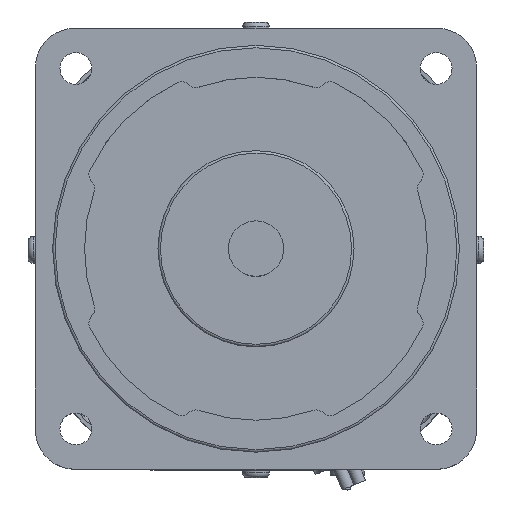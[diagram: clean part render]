
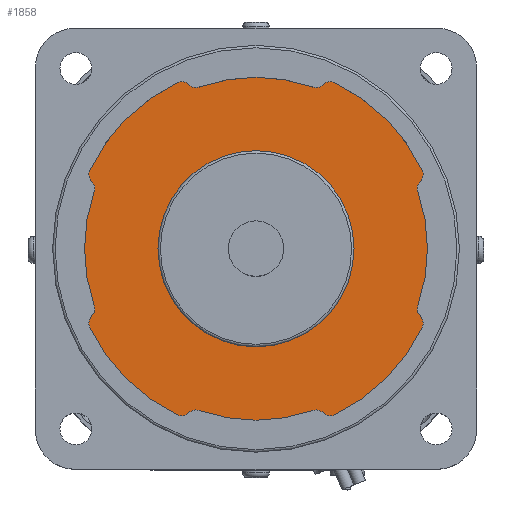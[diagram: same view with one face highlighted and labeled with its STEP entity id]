
A CAD part, top view. The second image highlights one B-rep face of the part: STEP entity #1858.
In plain terms, the highlighted planar face has unit normal (0, 0, 1).
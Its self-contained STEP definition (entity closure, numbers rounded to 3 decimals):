
#1617=CARTESIAN_POINT('',(20.0,0.,171.0));
#1618=VERTEX_POINT('',#1617);
#1619=CARTESIAN_POINT('',(0.,0.,171.0));
#1620=DIRECTION('',(0.0,0.0,-1.0));
#1621=DIRECTION('',(-1.0,0.0,0.0));
#1622=AXIS2_PLACEMENT_3D('',#1619,#1620,#1621);
#1623=CIRCLE('',#1622,20.0);
#1624=EDGE_CURVE('',#1618,#1618,#1623,.T.);
#1632=CARTESIAN_POINT('',(0.,0.,171.0));
#1633=DIRECTION('',(0.0,0.0,1.0));
#1634=DIRECTION('',(1.0,0.0,0.0));
#1635=AXIS2_PLACEMENT_3D('',#1632,#1633,#1634);
#1636=PLANE('',#1635);
#1637=CARTESIAN_POINT('',(-16.006,-33.913,171.0));
#1638=VERTEX_POINT('',#1637);
#1639=CARTESIAN_POINT('',(-13.722,-33.501,171.0));
#1640=VERTEX_POINT('',#1639);
#1641=CARTESIAN_POINT('',(-15.152,-32.104,171.0));
#1642=DIRECTION('',(0.0,0.0,1.0));
#1643=DIRECTION('',(0.427,0.904,0.0));
#1644=AXIS2_PLACEMENT_3D('',#1641,#1642,#1643);
#1645=CIRCLE('',#1644,2.);
#1646=EDGE_CURVE('',#1638,#1640,#1645,.T.);
#1647=ORIENTED_EDGE('',*,*,#1646,.T.);
#1648=CARTESIAN_POINT('',(-11.626,-33.013,171.0));
#1649=VERTEX_POINT('',#1648);
#1650=CARTESIAN_POINT('',(-12.291,-34.899,171.0));
#1651=DIRECTION('',(0.0,0.0,-1.0));
#1652=DIRECTION('',(-0.408,0.913,0.0));
#1653=AXIS2_PLACEMENT_3D('',#1650,#1651,#1652);
#1654=CIRCLE('',#1653,2.0);
#1655=EDGE_CURVE('',#1649,#1640,#1654,.F.);
#1656=ORIENTED_EDGE('',*,*,#1655,.F.);
#1657=CARTESIAN_POINT('',(11.626,-33.013,171.0));
#1658=VERTEX_POINT('',#1657);
#1659=CARTESIAN_POINT('',(0.,0.,171.));
#1660=DIRECTION('',(0.,0.,1.0));
#1661=DIRECTION('',(-0.383,-0.924,0.));
#1662=AXIS2_PLACEMENT_3D('',#1659,#1660,#1661);
#1663=CIRCLE('',#1662,35.0);
#1664=EDGE_CURVE('',#1649,#1658,#1663,.T.);
#1665=ORIENTED_EDGE('',*,*,#1664,.T.);
#1666=CARTESIAN_POINT('',(13.722,-33.501,171.0));
#1667=VERTEX_POINT('',#1666);
#1668=CARTESIAN_POINT('',(12.291,-34.899,171.0));
#1669=DIRECTION('',(0.0,0.0,-1.0));
#1670=DIRECTION('',(0.408,0.913,0.0));
#1671=AXIS2_PLACEMENT_3D('',#1668,#1669,#1670);
#1672=CIRCLE('',#1671,2.0);
#1673=EDGE_CURVE('',#1667,#1658,#1672,.F.);
#1674=ORIENTED_EDGE('',*,*,#1673,.F.);
#1675=CARTESIAN_POINT('',(16.006,-33.913,171.0));
#1676=VERTEX_POINT('',#1675);
#1677=CARTESIAN_POINT('',(15.152,-32.104,171.0));
#1678=DIRECTION('',(0.0,0.0,1.0));
#1679=DIRECTION('',(0.715,0.699,0.0));
#1680=AXIS2_PLACEMENT_3D('',#1677,#1678,#1679);
#1681=CIRCLE('',#1680,2.);
#1682=EDGE_CURVE('',#1667,#1676,#1681,.T.);
#1683=ORIENTED_EDGE('',*,*,#1682,.T.);
#1684=CARTESIAN_POINT('',(33.913,-16.006,171.0));
#1685=VERTEX_POINT('',#1684);
#1686=CARTESIAN_POINT('',(0.,0.,171.));
#1687=DIRECTION('',(0.,0.,1.0));
#1688=DIRECTION('',(0.383,-0.924,0.));
#1689=AXIS2_PLACEMENT_3D('',#1686,#1687,#1688);
#1690=CIRCLE('',#1689,37.5);
#1691=EDGE_CURVE('',#1676,#1685,#1690,.T.);
#1692=ORIENTED_EDGE('',*,*,#1691,.T.);
#1693=CARTESIAN_POINT('',(33.501,-13.722,171.0));
#1694=VERTEX_POINT('',#1693);
#1695=CARTESIAN_POINT('',(32.104,-15.152,171.0));
#1696=DIRECTION('',(0.0,0.0,1.0));
#1697=DIRECTION('',(-0.904,0.427,0.0));
#1698=AXIS2_PLACEMENT_3D('',#1695,#1696,#1697);
#1699=CIRCLE('',#1698,2.);
#1700=EDGE_CURVE('',#1685,#1694,#1699,.T.);
#1701=ORIENTED_EDGE('',*,*,#1700,.T.);
#1702=CARTESIAN_POINT('',(33.013,-11.626,171.0));
#1703=VERTEX_POINT('',#1702);
#1704=CARTESIAN_POINT('',(34.899,-12.291,171.0));
#1705=DIRECTION('',(0.0,0.0,-1.0));
#1706=DIRECTION('',(-0.913,-0.408,0.0));
#1707=AXIS2_PLACEMENT_3D('',#1704,#1705,#1706);
#1708=CIRCLE('',#1707,2.0);
#1709=EDGE_CURVE('',#1703,#1694,#1708,.F.);
#1710=ORIENTED_EDGE('',*,*,#1709,.F.);
#1711=CARTESIAN_POINT('',(33.013,11.626,171.0));
#1712=VERTEX_POINT('',#1711);
#1713=CARTESIAN_POINT('',(0.,0.,171.));
#1714=DIRECTION('',(0.,0.,1.0));
#1715=DIRECTION('',(0.924,-0.383,0.));
#1716=AXIS2_PLACEMENT_3D('',#1713,#1714,#1715);
#1717=CIRCLE('',#1716,35.);
#1718=EDGE_CURVE('',#1703,#1712,#1717,.T.);
#1719=ORIENTED_EDGE('',*,*,#1718,.T.);
#1720=CARTESIAN_POINT('',(33.501,13.722,171.0));
#1721=VERTEX_POINT('',#1720);
#1722=CARTESIAN_POINT('',(34.899,12.291,171.0));
#1723=DIRECTION('',(0.0,0.0,-1.0));
#1724=DIRECTION('',(-0.913,0.408,0.0));
#1725=AXIS2_PLACEMENT_3D('',#1722,#1723,#1724);
#1726=CIRCLE('',#1725,2.0);
#1727=EDGE_CURVE('',#1721,#1712,#1726,.F.);
#1728=ORIENTED_EDGE('',*,*,#1727,.F.);
#1729=CARTESIAN_POINT('',(33.913,16.006,171.0));
#1730=VERTEX_POINT('',#1729);
#1731=CARTESIAN_POINT('',(32.104,15.152,171.0));
#1732=DIRECTION('',(0.0,0.0,1.0));
#1733=DIRECTION('',(-0.699,0.715,0.0));
#1734=AXIS2_PLACEMENT_3D('',#1731,#1732,#1733);
#1735=CIRCLE('',#1734,2.);
#1736=EDGE_CURVE('',#1721,#1730,#1735,.T.);
#1737=ORIENTED_EDGE('',*,*,#1736,.T.);
#1738=CARTESIAN_POINT('',(16.006,33.913,171.0));
#1739=VERTEX_POINT('',#1738);
#1740=CARTESIAN_POINT('',(0.,0.,171.));
#1741=DIRECTION('',(0.,0.,1.0));
#1742=DIRECTION('',(0.924,0.383,0.));
#1743=AXIS2_PLACEMENT_3D('',#1740,#1741,#1742);
#1744=CIRCLE('',#1743,37.5);
#1745=EDGE_CURVE('',#1730,#1739,#1744,.T.);
#1746=ORIENTED_EDGE('',*,*,#1745,.T.);
#1747=CARTESIAN_POINT('',(13.722,33.501,171.0));
#1748=VERTEX_POINT('',#1747);
#1749=CARTESIAN_POINT('',(15.152,32.104,171.0));
#1750=DIRECTION('',(0.0,0.0,1.0));
#1751=DIRECTION('',(-0.427,-0.904,0.0));
#1752=AXIS2_PLACEMENT_3D('',#1749,#1750,#1751);
#1753=CIRCLE('',#1752,2.);
#1754=EDGE_CURVE('',#1739,#1748,#1753,.T.);
#1755=ORIENTED_EDGE('',*,*,#1754,.T.);
#1756=CARTESIAN_POINT('',(11.626,33.013,171.0));
#1757=VERTEX_POINT('',#1756);
#1758=CARTESIAN_POINT('',(12.291,34.899,171.0));
#1759=DIRECTION('',(0.0,0.0,-1.0));
#1760=DIRECTION('',(0.408,-0.913,0.0));
#1761=AXIS2_PLACEMENT_3D('',#1758,#1759,#1760);
#1762=CIRCLE('',#1761,2.0);
#1763=EDGE_CURVE('',#1757,#1748,#1762,.F.);
#1764=ORIENTED_EDGE('',*,*,#1763,.F.);
#1765=CARTESIAN_POINT('',(-11.626,33.013,171.0));
#1766=VERTEX_POINT('',#1765);
#1767=CARTESIAN_POINT('',(0.,0.,171.));
#1768=DIRECTION('',(0.,0.,1.0));
#1769=DIRECTION('',(0.383,0.924,0.));
#1770=AXIS2_PLACEMENT_3D('',#1767,#1768,#1769);
#1771=CIRCLE('',#1770,35.0);
#1772=EDGE_CURVE('',#1757,#1766,#1771,.T.);
#1773=ORIENTED_EDGE('',*,*,#1772,.T.);
#1774=CARTESIAN_POINT('',(-13.722,33.501,171.0));
#1775=VERTEX_POINT('',#1774);
#1776=CARTESIAN_POINT('',(-12.291,34.899,171.0));
#1777=DIRECTION('',(0.0,0.0,-1.0));
#1778=DIRECTION('',(-0.408,-0.913,0.0));
#1779=AXIS2_PLACEMENT_3D('',#1776,#1777,#1778);
#1780=CIRCLE('',#1779,2.0);
#1781=EDGE_CURVE('',#1775,#1766,#1780,.F.);
#1782=ORIENTED_EDGE('',*,*,#1781,.F.);
#1783=CARTESIAN_POINT('',(-16.006,33.913,171.0));
#1784=VERTEX_POINT('',#1783);
#1785=CARTESIAN_POINT('',(-15.152,32.104,171.0));
#1786=DIRECTION('',(0.0,0.0,1.0));
#1787=DIRECTION('',(-0.715,-0.699,0.0));
#1788=AXIS2_PLACEMENT_3D('',#1785,#1786,#1787);
#1789=CIRCLE('',#1788,2.);
#1790=EDGE_CURVE('',#1775,#1784,#1789,.T.);
#1791=ORIENTED_EDGE('',*,*,#1790,.T.);
#1792=CARTESIAN_POINT('',(-33.913,16.006,171.0));
#1793=VERTEX_POINT('',#1792);
#1794=CARTESIAN_POINT('',(0.,0.,171.));
#1795=DIRECTION('',(0.,0.,1.0));
#1796=DIRECTION('',(-0.383,0.924,0.));
#1797=AXIS2_PLACEMENT_3D('',#1794,#1795,#1796);
#1798=CIRCLE('',#1797,37.5);
#1799=EDGE_CURVE('',#1784,#1793,#1798,.T.);
#1800=ORIENTED_EDGE('',*,*,#1799,.T.);
#1801=CARTESIAN_POINT('',(-33.501,13.722,171.0));
#1802=VERTEX_POINT('',#1801);
#1803=CARTESIAN_POINT('',(-32.104,15.152,171.0));
#1804=DIRECTION('',(0.0,0.0,1.0));
#1805=DIRECTION('',(0.904,-0.427,0.0));
#1806=AXIS2_PLACEMENT_3D('',#1803,#1804,#1805);
#1807=CIRCLE('',#1806,2.);
#1808=EDGE_CURVE('',#1793,#1802,#1807,.T.);
#1809=ORIENTED_EDGE('',*,*,#1808,.T.);
#1810=CARTESIAN_POINT('',(-33.013,11.626,171.0));
#1811=VERTEX_POINT('',#1810);
#1812=CARTESIAN_POINT('',(-34.899,12.291,171.0));
#1813=DIRECTION('',(0.0,0.0,-1.0));
#1814=DIRECTION('',(0.913,0.408,0.0));
#1815=AXIS2_PLACEMENT_3D('',#1812,#1813,#1814);
#1816=CIRCLE('',#1815,2.0);
#1817=EDGE_CURVE('',#1811,#1802,#1816,.F.);
#1818=ORIENTED_EDGE('',*,*,#1817,.F.);
#1819=CARTESIAN_POINT('',(-33.013,-11.626,171.0));
#1820=VERTEX_POINT('',#1819);
#1821=CARTESIAN_POINT('',(0.,0.,171.));
#1822=DIRECTION('',(0.,0.,1.0));
#1823=DIRECTION('',(-0.924,0.383,0.));
#1824=AXIS2_PLACEMENT_3D('',#1821,#1822,#1823);
#1825=CIRCLE('',#1824,35.0);
#1826=EDGE_CURVE('',#1811,#1820,#1825,.T.);
#1827=ORIENTED_EDGE('',*,*,#1826,.T.);
#1828=CARTESIAN_POINT('',(-33.501,-13.722,171.0));
#1829=VERTEX_POINT('',#1828);
#1830=CARTESIAN_POINT('',(-34.899,-12.291,171.0));
#1831=DIRECTION('',(0.0,0.0,-1.0));
#1832=DIRECTION('',(0.913,-0.408,0.0));
#1833=AXIS2_PLACEMENT_3D('',#1830,#1831,#1832);
#1834=CIRCLE('',#1833,2.0);
#1835=EDGE_CURVE('',#1829,#1820,#1834,.F.);
#1836=ORIENTED_EDGE('',*,*,#1835,.F.);
#1837=CARTESIAN_POINT('',(-33.913,-16.006,171.0));
#1838=VERTEX_POINT('',#1837);
#1839=CARTESIAN_POINT('',(-32.104,-15.152,171.0));
#1840=DIRECTION('',(0.0,0.0,1.0));
#1841=DIRECTION('',(0.699,-0.715,0.0));
#1842=AXIS2_PLACEMENT_3D('',#1839,#1840,#1841);
#1843=CIRCLE('',#1842,2.);
#1844=EDGE_CURVE('',#1829,#1838,#1843,.T.);
#1845=ORIENTED_EDGE('',*,*,#1844,.T.);
#1846=CARTESIAN_POINT('',(0.,0.,171.));
#1847=DIRECTION('',(0.,0.,1.0));
#1848=DIRECTION('',(-0.924,-0.383,0.));
#1849=AXIS2_PLACEMENT_3D('',#1846,#1847,#1848);
#1850=CIRCLE('',#1849,37.5);
#1851=EDGE_CURVE('',#1838,#1638,#1850,.T.);
#1852=ORIENTED_EDGE('',*,*,#1851,.T.);
#1853=EDGE_LOOP('',(#1647,#1656,#1665,#1674,#1683,#1692,#1701,#1710,#1719,#1728,#1737,#1746,#1755,#1764,#1773,#1782,#1791,#1800,#1809,#1818,#1827,#1836,#1845,#1852));
#1854=FACE_OUTER_BOUND('',#1853,.T.);
#1855=ORIENTED_EDGE('',*,*,#1624,.T.);
#1856=EDGE_LOOP('',(#1855));
#1857=FACE_BOUND('',#1856,.T.);
#1858=ADVANCED_FACE('',(#1854,#1857),#1636,.T.);
